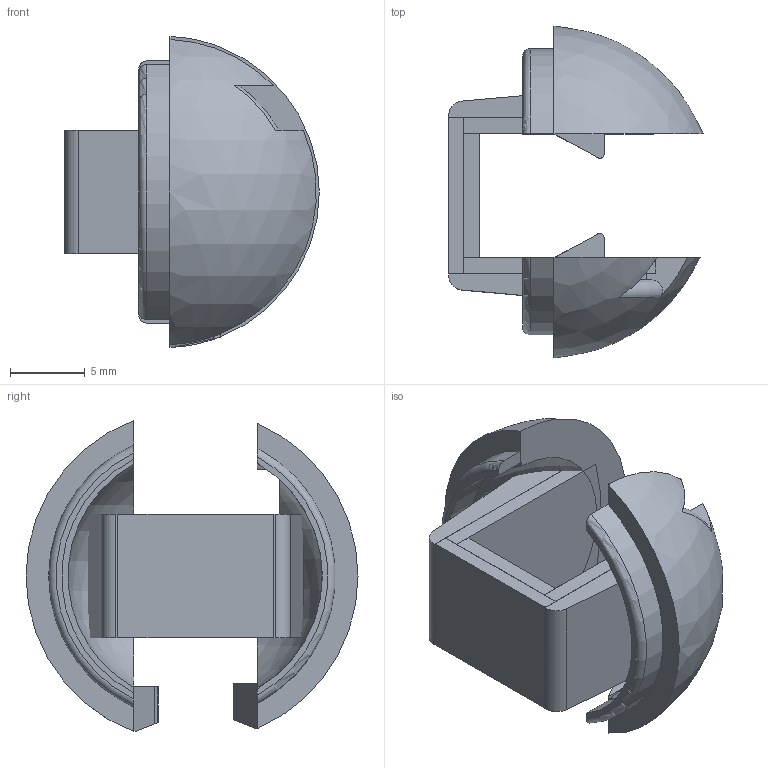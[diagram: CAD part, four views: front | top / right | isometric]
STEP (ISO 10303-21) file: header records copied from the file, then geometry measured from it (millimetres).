
FILE_DESCRIPTION(/* description */ ('','CAx-IF Rec.Pracs.---Representation and Presentation of Product Manufacturing Information (PMI)---4.0---2014-10-13'),/* implementation_level */ '2;1');
FILE_NAME(/* name */ 'Eye_Eyeball_Back_20250309.step',/* time_stamp */ '2025-03-09T19:33:47Z',/* author */ (''),/* organization */ (''),/* preprocessor_version */ 'ST-DEVELOPER v20',/* originating_system */ 'Autodesk Translation Framework v13.20.0.188',/* authorisation */ '');
FILE_SCHEMA (('AP242_MANAGED_MODEL_BASED_3D_ENGINEERING_MIM_LF { 1 0 10303 442 1 1 4 }'));
Length unit declared in the file: millimetre
Products named in the file (1): EXPERIMENTALOhbotWood Powered Eyeball Back 20250203
Bounding box: 17.09 x 22.28 x 20.87 mm (x, y, z)
Volume: 1676.1 mm3; surface area: 2749.3 mm2
Topology: 12 solids, 12 shells, 91 faces, 201 edges, 134 vertices
Faces by surface type: plane 70, cylinder 13, sphere 5, torus 3
Entity records: 2582 total; most frequent: CARTESIAN_POINT 498, DIRECTION 426, ORIENTED_EDGE 402, EDGE_CURVE 201, LINE 146, VECTOR 146, AXIS2_PLACEMENT_3D 140, VERTEX_POINT 134
